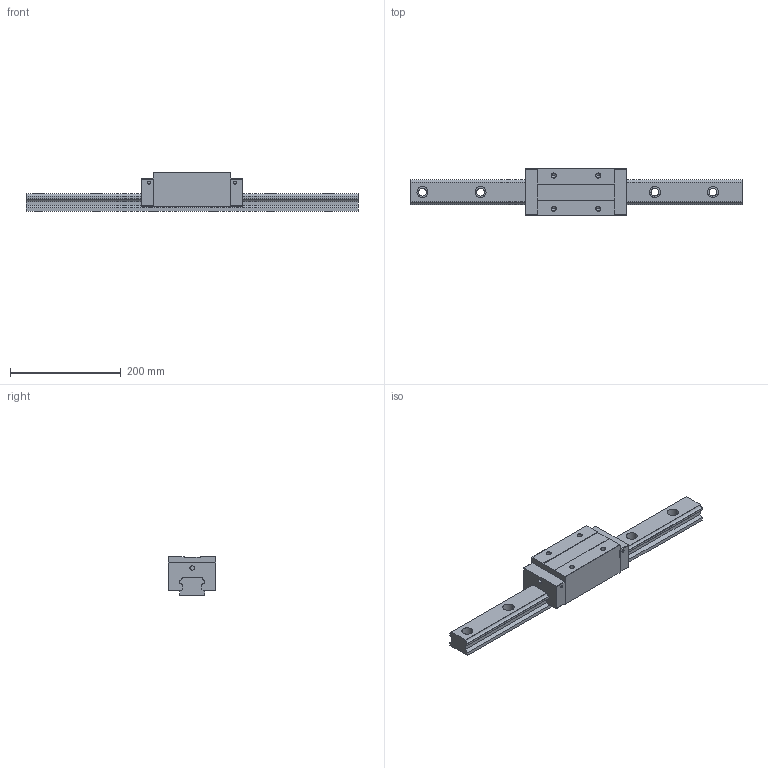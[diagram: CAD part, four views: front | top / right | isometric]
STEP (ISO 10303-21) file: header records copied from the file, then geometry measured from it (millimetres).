
FILE_DESCRIPTION (( 'STEP AP203' ), '1' );
FILE_NAME ('TRH45VE-ZN.STEP', '2024-05-20T08:13:32', ( '' ), ( '' ), 'SwSTEP 2.0', 'SolidWorks 2022', '' );
FILE_SCHEMA (( 'CONFIG_CONTROL_DESIGN' ));
Length unit declared in the file: millimetre
Products named in the file (1): TRH45VE-ZN
Bounding box: 600 x 85.5 x 70 mm (x, y, z)
Volume: 1456337.7 mm3; surface area: 180552.8 mm2
Topology: 2 solids, 2 shells, 180 faces, 472 edges, 304 vertices
Faces by surface type: plane 84, cylinder 80, cone 16
Entity records: 5607 total; most frequent: DIRECTION 994, CARTESIAN_POINT 949, ORIENTED_EDGE 928, EDGE_CURVE 464, AXIS2_PLACEMENT_3D 349, VERTEX_POINT 304, VECTOR 296, LINE 296
